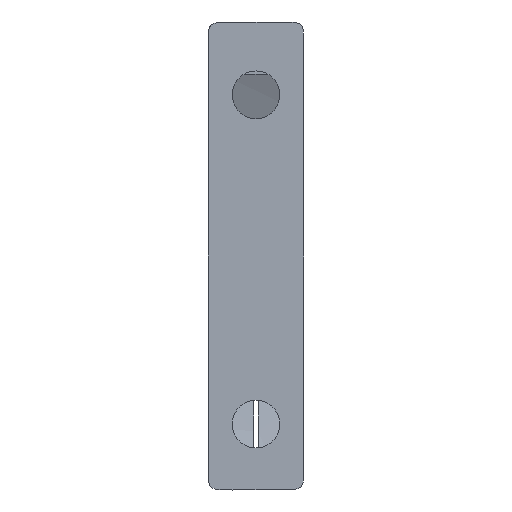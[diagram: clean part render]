
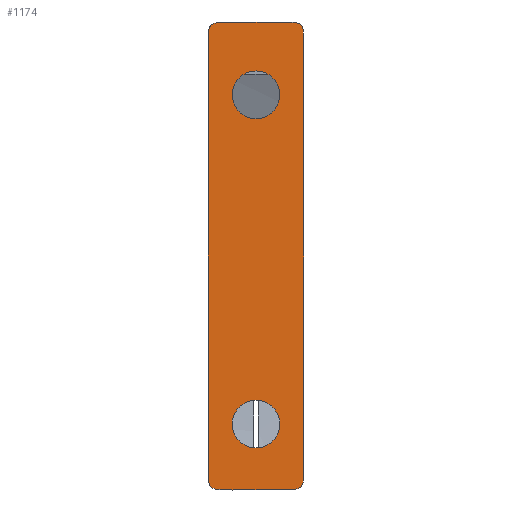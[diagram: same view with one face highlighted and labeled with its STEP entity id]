
A CAD part, front view. The second image highlights one B-rep face of the part: STEP entity #1174.
In plain terms, the highlighted planar face has unit normal (0, -1, 0).
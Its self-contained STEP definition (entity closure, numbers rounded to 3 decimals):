
#1=CARTESIAN_POINT('',(5.5,-12.,-24.2));
#2=CARTESIAN_POINT('',(5.5,-12.,-24.377));
#3=CARTESIAN_POINT('',(5.492,-12.,-24.742));
#4=CARTESIAN_POINT('',(5.433,-12.,-25.253));
#5=CARTESIAN_POINT('',(5.244,-12.,-25.654));
#6=CARTESIAN_POINT('',(4.86,-12.,-25.86));
#7=CARTESIAN_POINT('',(4.357,-12.,-25.946));
#8=CARTESIAN_POINT('',(3.638,-12.,-25.995));
#9=CARTESIAN_POINT('',(3.073,-12.,-26.));
#10=CARTESIAN_POINT('',(2.7,-12.,-26.));
#12=CARTESIAN_POINT('',(-2.7,-12.,-26.));
#13=CARTESIAN_POINT('',(-3.073,-12.,-26.));
#14=CARTESIAN_POINT('',(-3.638,-12.,-25.995));
#15=CARTESIAN_POINT('',(-4.356,-12.,-25.946));
#16=CARTESIAN_POINT('',(-4.86,-12.,-25.86));
#17=CARTESIAN_POINT('',(-5.244,-12.,-25.654));
#18=CARTESIAN_POINT('',(-5.433,-12.,-25.253));
#19=CARTESIAN_POINT('',(-5.492,-12.,-24.742));
#20=CARTESIAN_POINT('',(-5.5,-12.,-24.377));
#21=CARTESIAN_POINT('',(-5.5,-12.,-24.2));
#23=CARTESIAN_POINT('',(-5.5,-12.,26.2));
#24=CARTESIAN_POINT('',(-5.5,-12.,26.377));
#25=CARTESIAN_POINT('',(-5.492,-12.,26.742));
#26=CARTESIAN_POINT('',(-5.433,-12.,27.253));
#27=CARTESIAN_POINT('',(-5.244,-12.,27.654));
#28=CARTESIAN_POINT('',(-4.86,-12.,27.86));
#29=CARTESIAN_POINT('',(-4.357,-12.,27.946));
#30=CARTESIAN_POINT('',(-3.638,-12.,27.995));
#31=CARTESIAN_POINT('',(-3.073,-12.,28.));
#32=CARTESIAN_POINT('',(-2.7,-12.,28.));
#34=CARTESIAN_POINT('',(2.7,-12.,28.));
#35=CARTESIAN_POINT('',(3.073,-12.,28.));
#36=CARTESIAN_POINT('',(3.638,-12.,27.995));
#37=CARTESIAN_POINT('',(4.356,-12.,27.946));
#38=CARTESIAN_POINT('',(4.86,-12.,27.86));
#39=CARTESIAN_POINT('',(5.244,-12.,27.654));
#40=CARTESIAN_POINT('',(5.433,-12.,27.253));
#41=CARTESIAN_POINT('',(5.492,-12.,26.742));
#42=CARTESIAN_POINT('',(5.5,-12.,26.377));
#43=CARTESIAN_POINT('',(5.5,-12.,26.2));
#45=CARTESIAN_POINT('',(0.,-12.,19.6));
#46=DIRECTION('',(0.,-1.,0.));
#47=DIRECTION('',(0.,0.,-1.));
#48=AXIS2_PLACEMENT_3D('',#45,#46,#47);
#50=CARTESIAN_POINT('',(0.,-12.,19.6));
#51=DIRECTION('',(0.,-1.,0.));
#52=DIRECTION('',(0.,0.,1.));
#53=AXIS2_PLACEMENT_3D('',#50,#51,#52);
#55=CARTESIAN_POINT('',(0.,-12.,-18.4));
#56=DIRECTION('',(0.,-1.,0.));
#57=DIRECTION('',(0.,0.,-1.));
#58=AXIS2_PLACEMENT_3D('',#55,#56,#57);
#60=CARTESIAN_POINT('',(0.,-12.,-18.4));
#61=DIRECTION('',(0.,-1.,0.));
#62=DIRECTION('',(0.,0.,1.));
#63=AXIS2_PLACEMENT_3D('',#60,#61,#62);
#458=DIRECTION('',(-1.,0.,0.));
#459=VECTOR('',#458,5.4);
#460=CARTESIAN_POINT('',(2.7,-12.,28.));
#461=LINE('',#460,#459);
#908=DIRECTION('',(0.,0.,-1.));
#909=VECTOR('',#908,50.4);
#910=CARTESIAN_POINT('',(-5.5,-12.,26.2));
#911=LINE('',#910,#909);
#951=DIRECTION('',(1.,0.,0.));
#952=VECTOR('',#951,5.4);
#953=CARTESIAN_POINT('',(-2.7,-12.,-26.));
#954=LINE('',#953,#952);
#975=DIRECTION('',(0.,0.,1.));
#976=VECTOR('',#975,50.4);
#977=CARTESIAN_POINT('',(5.5,-12.,-24.2));
#978=LINE('',#977,#976);
#989=VERTEX_POINT('',#1);
#990=VERTEX_POINT('',#10);
#991=CARTESIAN_POINT('',(-2.7,-12.,-26.));
#992=VERTEX_POINT('',#991);
#993=VERTEX_POINT('',#21);
#994=CARTESIAN_POINT('',(-5.5,-12.,26.2));
#995=VERTEX_POINT('',#994);
#996=VERTEX_POINT('',#32);
#997=CARTESIAN_POINT('',(2.7,-12.,28.));
#998=VERTEX_POINT('',#997);
#999=VERTEX_POINT('',#43);
#1000=CARTESIAN_POINT('',(0.,-12.,16.85));
#1001=CARTESIAN_POINT('',(0.,-12.,22.35));
#1002=VERTEX_POINT('',#1000);
#1003=VERTEX_POINT('',#1001);
#1004=CARTESIAN_POINT('',(0.,-12.,-21.15));
#1005=CARTESIAN_POINT('',(0.,-12.,-15.65));
#1006=VERTEX_POINT('',#1004);
#1007=VERTEX_POINT('',#1005);
#1139=CARTESIAN_POINT('',(0.,-12.,0.));
#1140=DIRECTION('',(0.,1.,0.));
#1141=DIRECTION('',(0.,0.,-1.));
#1142=AXIS2_PLACEMENT_3D('',#1139,#1140,#1141);
#1143=PLANE('',#1142);
#1145=ORIENTED_EDGE('',*,*,#1144,.T.);
#1147=ORIENTED_EDGE('',*,*,#1146,.F.);
#1149=ORIENTED_EDGE('',*,*,#1148,.T.);
#1151=ORIENTED_EDGE('',*,*,#1150,.F.);
#1153=ORIENTED_EDGE('',*,*,#1152,.T.);
#1155=ORIENTED_EDGE('',*,*,#1154,.F.);
#1157=ORIENTED_EDGE('',*,*,#1156,.T.);
#1159=ORIENTED_EDGE('',*,*,#1158,.F.);
#1160=EDGE_LOOP('',(#1145,#1147,#1149,#1151,#1153,#1155,#1157,#1159));
#1161=FACE_OUTER_BOUND('',#1160,.F.);
#1163=ORIENTED_EDGE('',*,*,#1162,.T.);
#1165=ORIENTED_EDGE('',*,*,#1164,.T.);
#1166=EDGE_LOOP('',(#1163,#1165));
#1167=FACE_BOUND('',#1166,.F.);
#1169=ORIENTED_EDGE('',*,*,#1168,.T.);
#1171=ORIENTED_EDGE('',*,*,#1170,.T.);
#1172=EDGE_LOOP('',(#1169,#1171));
#1173=FACE_BOUND('',#1172,.F.);
#1174=ADVANCED_FACE('',(#1161,#1167,#1173),#1143,.F.);
#11=B_SPLINE_CURVE_WITH_KNOTS('',3,(#1,#2,#3,#4,#5,#6,#7,#8,#9,#10),
.UNSPECIFIED.,.F.,.F.,(4,1,1,1,1,1,1,4),(0.,0.115,
0.243,0.372,0.5,0.628,
0.757,1.),.UNSPECIFIED.);
#22=B_SPLINE_CURVE_WITH_KNOTS('',3,(#12,#13,#14,#15,#16,#17,#18,#19,#20,#21),
.UNSPECIFIED.,.F.,.F.,(4,1,1,1,1,1,1,4),(0.,0.243,
0.372,0.5,0.628,0.756,
0.885,1.),.UNSPECIFIED.);
#33=B_SPLINE_CURVE_WITH_KNOTS('',3,(#23,#24,#25,#26,#27,#28,#29,#30,#31,#32),
.UNSPECIFIED.,.F.,.F.,(4,1,1,1,1,1,1,4),(0.,0.115,
0.243,0.372,0.5,0.628,
0.757,1.),.UNSPECIFIED.);
#44=B_SPLINE_CURVE_WITH_KNOTS('',3,(#34,#35,#36,#37,#38,#39,#40,#41,#42,#43),
.UNSPECIFIED.,.F.,.F.,(4,1,1,1,1,1,1,4),(0.,0.243,
0.372,0.5,0.628,0.756,
0.885,1.),.UNSPECIFIED.);
#49=CIRCLE('',#48,2.75);
#54=CIRCLE('',#53,2.75);
#59=CIRCLE('',#58,2.75);
#64=CIRCLE('',#63,2.75);
#1144=EDGE_CURVE('',#989,#990,#11,.T.);
#1146=EDGE_CURVE('',#992,#990,#954,.T.);
#1148=EDGE_CURVE('',#992,#993,#22,.T.);
#1150=EDGE_CURVE('',#995,#993,#911,.T.);
#1152=EDGE_CURVE('',#995,#996,#33,.T.);
#1154=EDGE_CURVE('',#998,#996,#461,.T.);
#1156=EDGE_CURVE('',#998,#999,#44,.T.);
#1158=EDGE_CURVE('',#989,#999,#978,.T.);
#1162=EDGE_CURVE('',#1002,#1003,#49,.T.);
#1164=EDGE_CURVE('',#1003,#1002,#54,.T.);
#1168=EDGE_CURVE('',#1006,#1007,#59,.T.);
#1170=EDGE_CURVE('',#1007,#1006,#64,.T.);
